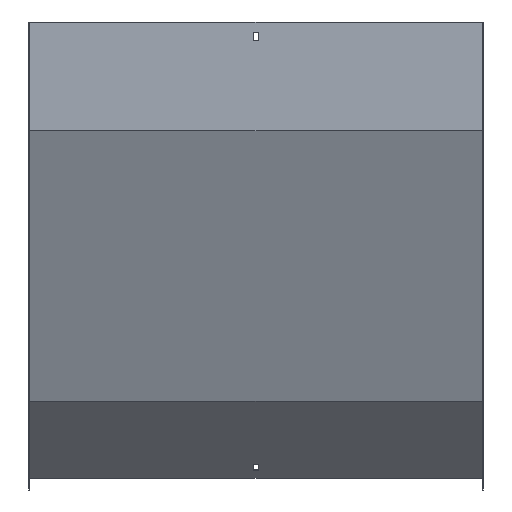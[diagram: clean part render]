
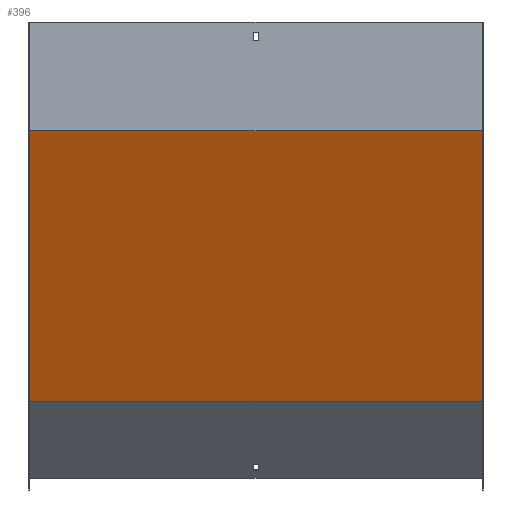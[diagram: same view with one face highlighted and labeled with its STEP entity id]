
A CAD part, front view. The second image highlights one B-rep face of the part: STEP entity #396.
In plain terms, the highlighted planar face has unit normal (0, -0.924, -0.383).
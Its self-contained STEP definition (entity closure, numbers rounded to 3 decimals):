
#1 = LINE ( 'NONE', #526, #679 ) ;
#15 = DIRECTION ( 'NONE',  ( 0., 0.924, 0.383 ) ) ;
#60 = DIRECTION ( 'NONE',  ( 0., 0.383, -0.924 ) ) ;
#62 = EDGE_CURVE ( 'NONE', #767, #658, #701, .T. ) ;
#84 = ORIENTED_EDGE ( 'NONE', *, *, #814, .T. ) ;
#103 = CARTESIAN_POINT ( 'NONE',  ( 250., -43.812, -18.148 ) ) ;
#150 = CARTESIAN_POINT ( 'NONE',  ( -250., -1.5, -120.298 ) ) ;
#223 = DIRECTION ( 'NONE',  ( 0., -0.383, 0.924 ) ) ;
#241 = ORIENTED_EDGE ( 'NONE', *, *, #484, .F. ) ;
#256 = VECTOR ( 'NONE', #60, 1000. ) ;
#293 = VERTEX_POINT ( 'NONE', #785 ) ;
#295 = AXIS2_PLACEMENT_3D ( 'NONE', #332, #15, #223 ) ;
#326 = ORIENTED_EDGE ( 'NONE', *, *, #342, .F. ) ;
#332 = CARTESIAN_POINT ( 'NONE',  ( 251.5, -1.386, -120.574 ) ) ;
#342 = EDGE_CURVE ( 'NONE', #813, #293, #729, .T. ) ;
#351 = CARTESIAN_POINT ( 'NONE',  ( 251.5, -1.5, -120.298 ) ) ;
#368 = DIRECTION ( 'NONE',  ( -1., 0., 0. ) ) ;
#396 = ADVANCED_FACE ( 'NONE', ( #539 ), #817, .F. ) ;
#484 = EDGE_CURVE ( 'NONE', #767, #813, #654, .T. ) ;
#502 = VECTOR ( 'NONE', #368, 1000. ) ;
#526 = CARTESIAN_POINT ( 'NONE',  ( -250., -43.812, -18.148 ) ) ;
#533 = CARTESIAN_POINT ( 'NONE',  ( 250., 122.335, -419.263 ) ) ;
#539 = FACE_OUTER_BOUND ( 'NONE', #689, .T. ) ;
#580 = VECTOR ( 'NONE', #851, 1000. ) ;
#612 = ORIENTED_EDGE ( 'NONE', *, *, #62, .T. ) ;
#654 = LINE ( 'NONE', #103, #256 ) ;
#658 = VERTEX_POINT ( 'NONE', #150 ) ;
#670 = CARTESIAN_POINT ( 'NONE',  ( 251.5, 122.335, -419.263 ) ) ;
#679 = VECTOR ( 'NONE', #790, 1000. ) ;
#689 = EDGE_LOOP ( 'NONE', ( #84, #326, #241, #612 ) ) ;
#701 = LINE ( 'NONE', #351, #502 ) ;
#720 = CARTESIAN_POINT ( 'NONE',  ( 250., -1.5, -120.298 ) ) ;
#729 = LINE ( 'NONE', #670, #580 ) ;
#767 = VERTEX_POINT ( 'NONE', #720 ) ;
#785 = CARTESIAN_POINT ( 'NONE',  ( -250., 122.335, -419.263 ) ) ;
#790 = DIRECTION ( 'NONE',  ( 0., 0.383, -0.924 ) ) ;
#813 = VERTEX_POINT ( 'NONE', #533 ) ;
#814 = EDGE_CURVE ( 'NONE', #658, #293, #1, .T. ) ;
#817 = PLANE ( 'NONE',  #295 ) ;
#851 = DIRECTION ( 'NONE',  ( -1., 0., 0. ) ) ;
